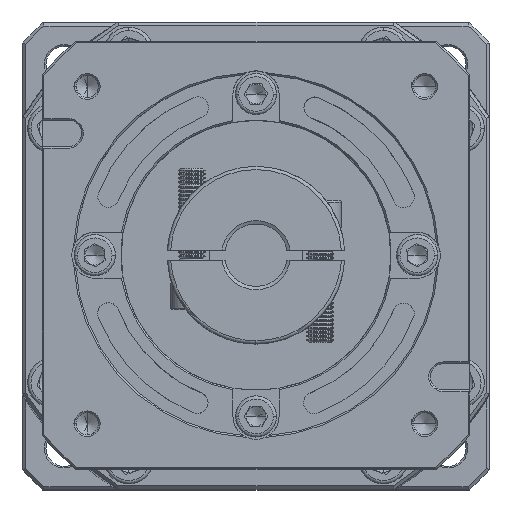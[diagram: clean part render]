
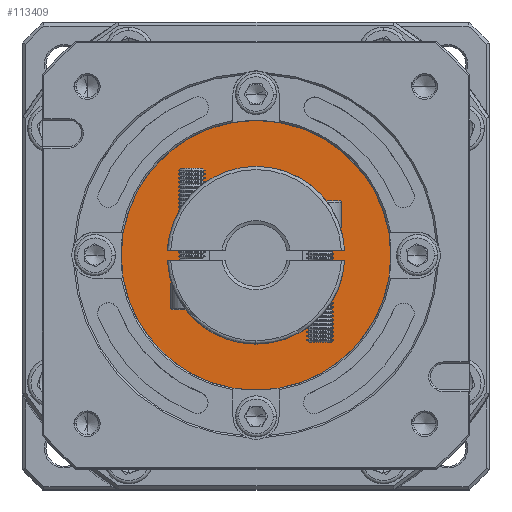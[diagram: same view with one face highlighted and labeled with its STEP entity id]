
A CAD part, top view. The second image highlights one B-rep face of the part: STEP entity #113409.
In plain terms, the highlighted planar face has unit normal (0, 0, 1).
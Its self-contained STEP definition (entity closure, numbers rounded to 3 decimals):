
#224 = FACE_BOUND ( 'NONE', #105197, .T. ) ;
#465 = CARTESIAN_POINT ( 'NONE',  ( -149.535, 80.428, -15.96 ) ) ;
#990 = ORIENTED_EDGE ( 'NONE', *, *, #58035, .T. ) ;
#1000 = AXIS2_PLACEMENT_3D ( 'NONE', #34458, #112787, #45862 ) ;
#6032 = DIRECTION ( 'NONE',  ( 0., 0., -1. ) ) ;
#9193 = DIRECTION ( 'NONE',  ( 1., 0., 0. ) ) ;
#9462 = CIRCLE ( 'NONE', #79644, 41. ) ;
#11469 = AXIS2_PLACEMENT_3D ( 'NONE', #18529, #76224, #9193 ) ;
#12729 = VERTEX_POINT ( 'NONE', #465 ) ;
#17730 = CARTESIAN_POINT ( 'NONE',  ( -129.535, 80.428, -15.96 ) ) ;
#18529 = CARTESIAN_POINT ( 'NONE',  ( -129.535, 80.428, -15.96 ) ) ;
#24105 = CARTESIAN_POINT ( 'NONE',  ( -88.535, 80.428, -15.96 ) ) ;
#25096 = CARTESIAN_POINT ( 'NONE',  ( -129.535, 80.428, -15.96 ) ) ;
#25915 = CARTESIAN_POINT ( 'NONE',  ( -170.535, 80.428, -15.96 ) ) ;
#28715 = DIRECTION ( 'NONE',  ( 1., 0., 0. ) ) ;
#34458 = CARTESIAN_POINT ( 'NONE',  ( -129.535, 80.428, -15.96 ) ) ;
#45862 = DIRECTION ( 'NONE',  ( 1., 0., 0. ) ) ;
#46568 = CIRCLE ( 'NONE', #1000, 41. ) ;
#48651 = DIRECTION ( 'NONE',  ( 0., 0., 1. ) ) ;
#50896 = EDGE_CURVE ( 'NONE', #70669, #109303, #46568, .T. ) ;
#53491 = DIRECTION ( 'NONE',  ( 1., 0., 0. ) ) ;
#58035 = EDGE_CURVE ( 'NONE', #109303, #70669, #9462, .T. ) ;
#59198 = PLANE ( 'NONE',  #83636 ) ;
#70543 = CIRCLE ( 'NONE', #11469, 20. ) ;
#70669 = VERTEX_POINT ( 'NONE', #24105 ) ;
#73001 = CIRCLE ( 'NONE', #94278, 20. ) ;
#76224 = DIRECTION ( 'NONE',  ( 0., 0., -1. ) ) ;
#79644 = AXIS2_PLACEMENT_3D ( 'NONE', #115012, #95658, #104903 ) ;
#79673 = ORIENTED_EDGE ( 'NONE', *, *, #50896, .T. ) ;
#83636 = AXIS2_PLACEMENT_3D ( 'NONE', #17730, #48651, #28715 ) ;
#85344 = CARTESIAN_POINT ( 'NONE',  ( -109.535, 80.428, -15.96 ) ) ;
#88845 = EDGE_CURVE ( 'NONE', #109812, #12729, #70543, .T. ) ;
#94278 = AXIS2_PLACEMENT_3D ( 'NONE', #25096, #6032, #53491 ) ;
#95658 = DIRECTION ( 'NONE',  ( 0., 0., 1. ) ) ;
#101839 = FACE_OUTER_BOUND ( 'NONE', #104890, .T. ) ;
#104890 = EDGE_LOOP ( 'NONE', ( #79673, #990 ) ) ;
#104903 = DIRECTION ( 'NONE',  ( 1., 0., 0. ) ) ;
#105197 = EDGE_LOOP ( 'NONE', ( #124605, #125575 ) ) ;
#109303 = VERTEX_POINT ( 'NONE', #25915 ) ;
#109812 = VERTEX_POINT ( 'NONE', #85344 ) ;
#112787 = DIRECTION ( 'NONE',  ( 0., 0., 1. ) ) ;
#113409 = ADVANCED_FACE ( 'NONE', ( #101839, #224 ), #59198, .T. ) ;
#113556 = EDGE_CURVE ( 'NONE', #12729, #109812, #73001, .T. ) ;
#115012 = CARTESIAN_POINT ( 'NONE',  ( -129.535, 80.428, -15.96 ) ) ;
#124605 = ORIENTED_EDGE ( 'NONE', *, *, #88845, .T. ) ;
#125575 = ORIENTED_EDGE ( 'NONE', *, *, #113556, .T. ) ;
